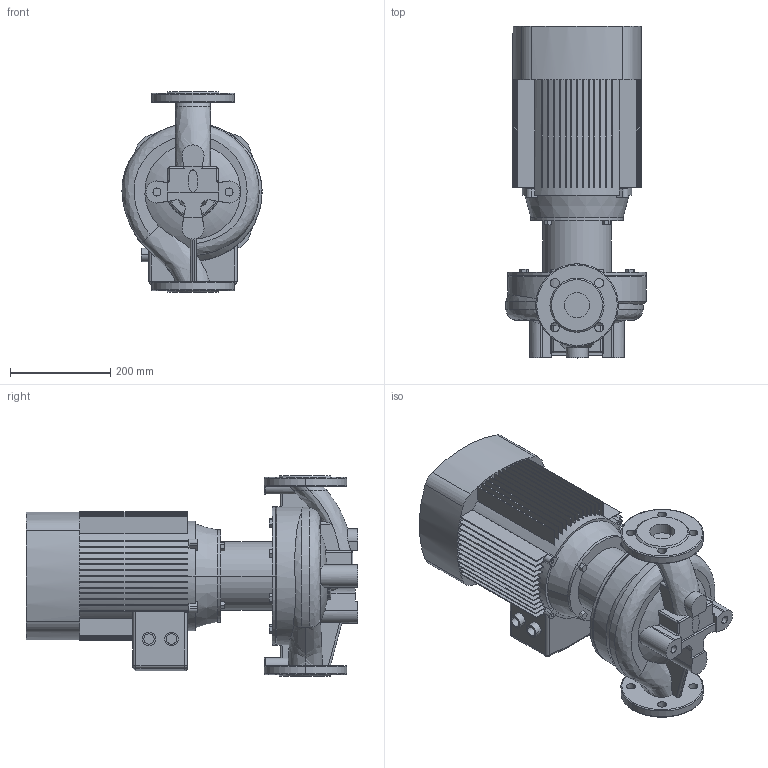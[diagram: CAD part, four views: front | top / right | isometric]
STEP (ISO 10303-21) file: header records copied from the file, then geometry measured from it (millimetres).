
FILE_DESCRIPTION (( 'STEP AP203' ), '1' );
FILE_NAME ('TD50-40G_2.STEP', '2022-05-02T14:56:51', ( '' ), ( '' ), 'SwSTEP 2.0', 'SolidWorks 2019', '' );
FILE_SCHEMA (( 'CONFIG_CONTROL_DESIGN' ));
Length unit declared in the file: millimetre
Products named in the file (4): ED_B14_YE2-132S2-2 (7.5); Fon_50_TD50-40G_2; TD50-40G_2; Pr_ch 50_TD50-40G_2
Assembly tree (3 placements, depth 2):
  TD50-40G_2
    Pr_ch 50_TD50-40G_2
    Fon_50_TD50-40G_2
    ED_B14_YE2-132S2-2 (7.5)
Bounding box: 280.04 x 663 x 400 mm (x, y, z)
Volume: 26718984.5 mm3; surface area: 1543472.4 mm2
Topology: 3 solids, 3 shells, 648 faces, 1761 edges, 1154 vertices
Faces by surface type: plane 426, cylinder 157, bspline 26, torus 22, cone 11, sphere 6
Entity records: 26432 total; most frequent: CARTESIAN_POINT 9487, ORIENTED_EDGE 3518, DIRECTION 3437, EDGE_CURVE 1759, AXIS2_PLACEMENT_3D 1213, VERTEX_POINT 1154, LINE 1011, VECTOR 1011
